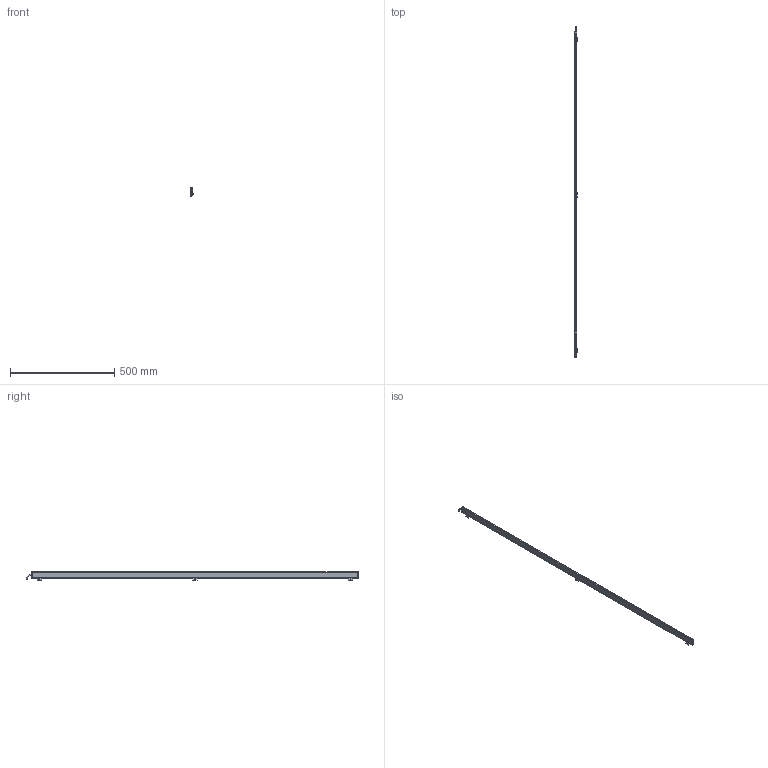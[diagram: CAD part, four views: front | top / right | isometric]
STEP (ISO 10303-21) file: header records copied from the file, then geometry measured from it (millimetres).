
FILE_DESCRIPTION (( 'STEP AP214' ), '1' );
FILE_NAME ('ILG-N-K1-1563mm.STEP', '2017-07-10T13:30:32', ( '' ), ( '' ), 'SwSTEP 2.0', 'SolidWorks 2016', '' );
FILE_SCHEMA (( 'AUTOMOTIVE_DESIGN' ));
Length unit declared in the file: millimetre
Products named in the file (1): ILG-N-K1-1563mm
Bounding box: 10.23 x 1591.25 x 42.41 mm (x, y, z)
Volume: 176595.2 mm3; surface area: 261824.3 mm2
Topology: 12 solids, 12 shells, 532 faces, 1348 edges, 836 vertices
Faces by surface type: plane 296, cylinder 162, cone 64, torus 10
Entity records: 21865 total; most frequent: CARTESIAN_POINT 2865, DIRECTION 2794, ORIENTED_EDGE 2680, EDGE_CURVE 1340, AXIS2_PLACEMENT_3D 973, LINE 848, VECTOR 848, VERTEX_POINT 836
